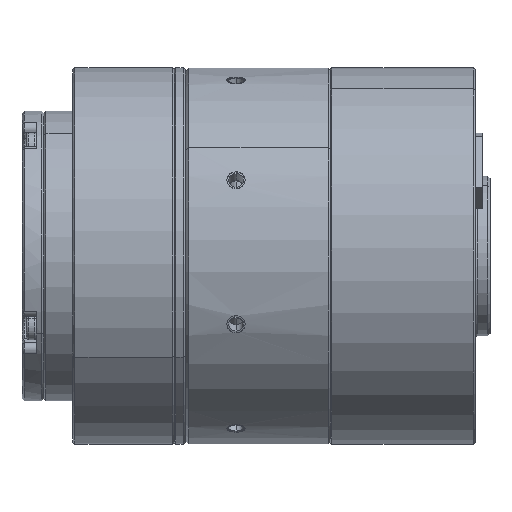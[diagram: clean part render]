
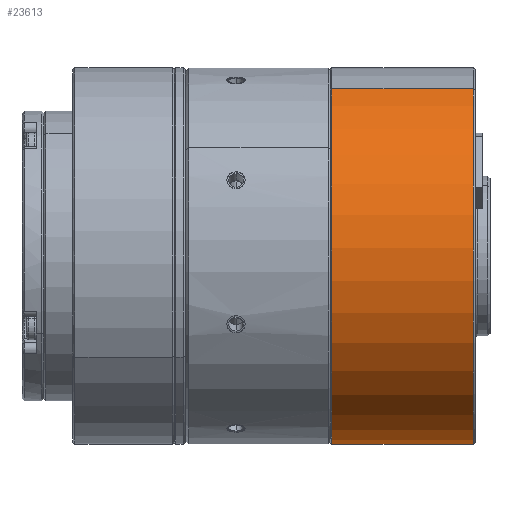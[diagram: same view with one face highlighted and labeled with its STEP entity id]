
A CAD part, left-side view. The second image highlights one B-rep face of the part: STEP entity #23613.
In plain terms, the highlighted cylindrical face has radius 26 mm (diameter 52 mm), a partial arc.
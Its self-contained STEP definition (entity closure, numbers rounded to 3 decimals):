
#790 = CARTESIAN_POINT ( 'NONE',  ( 0., -39.2, 0. ) ) ;
#2153 = AXIS2_PLACEMENT_3D ( 'NONE', #17923, #24983, #28157 ) ;
#3715 = CARTESIAN_POINT ( 'NONE',  ( -12.027, -39.2, 23.051 ) ) ;
#4483 = ORIENTED_EDGE ( 'NONE', *, *, #11722, .F. ) ;
#5437 = CIRCLE ( 'NONE', #26323, 26. ) ;
#5507 = LINE ( 'NONE', #15748, #13502 ) ;
#5817 = DIRECTION ( 'NONE',  ( 0., 1., 0. ) ) ;
#8606 = VERTEX_POINT ( 'NONE', #9079 ) ;
#9079 = CARTESIAN_POINT ( 'NONE',  ( 12.027, -19.7, -23.051 ) ) ;
#9558 = VECTOR ( 'NONE', #26842, 1000. ) ;
#10773 = CARTESIAN_POINT ( 'NONE',  ( 12.027, -39.2, -23.051 ) ) ;
#11722 = EDGE_CURVE ( 'NONE', #12823, #22079, #16598, .T. ) ;
#12823 = VERTEX_POINT ( 'NONE', #19268 ) ;
#13502 = VECTOR ( 'NONE', #25976, 1000. ) ;
#14090 = CARTESIAN_POINT ( 'NONE',  ( 0., -19.5, 0. ) ) ;
#14103 = CARTESIAN_POINT ( 'NONE',  ( -12.027, -19.5, 23.051 ) ) ;
#15197 = EDGE_CURVE ( 'NONE', #8606, #25643, #5507, .T. ) ;
#15748 = CARTESIAN_POINT ( 'NONE',  ( 12.027, -19.5, -23.051 ) ) ;
#16598 = LINE ( 'NONE', #14103, #9558 ) ;
#16921 = DIRECTION ( 'NONE',  ( 0., -1., 0. ) ) ;
#17923 = CARTESIAN_POINT ( 'NONE',  ( 0., -19.7, 0. ) ) ;
#18527 = EDGE_CURVE ( 'NONE', #25643, #22079, #5437, .T. ) ;
#19268 = CARTESIAN_POINT ( 'NONE',  ( -12.027, -19.7, 23.051 ) ) ;
#20909 = AXIS2_PLACEMENT_3D ( 'NONE', #14090, #16921, #24644 ) ;
#21623 = ORIENTED_EDGE ( 'NONE', *, *, #18527, .T. ) ;
#22079 = VERTEX_POINT ( 'NONE', #3715 ) ;
#23613 = ADVANCED_FACE ( 'NONE', ( #29827 ), #26828, .T. ) ;
#23791 = EDGE_CURVE ( 'NONE', #12823, #8606, #32678, .T. ) ;
#24644 = DIRECTION ( 'NONE',  ( 0.463, 0., -0.887 ) ) ;
#24689 = EDGE_LOOP ( 'NONE', ( #4483, #29474, #30077, #21623 ) ) ;
#24983 = DIRECTION ( 'NONE',  ( 0., -1., 0. ) ) ;
#25643 = VERTEX_POINT ( 'NONE', #10773 ) ;
#25976 = DIRECTION ( 'NONE',  ( 0., -1., 0. ) ) ;
#26323 = AXIS2_PLACEMENT_3D ( 'NONE', #790, #5817, #29935 ) ;
#26828 = CYLINDRICAL_SURFACE ( 'NONE', #20909, 26. ) ;
#26842 = DIRECTION ( 'NONE',  ( 0., -1., 0. ) ) ;
#28157 = DIRECTION ( 'NONE',  ( -0.463, 0., 0.887 ) ) ;
#29474 = ORIENTED_EDGE ( 'NONE', *, *, #23791, .T. ) ;
#29827 = FACE_OUTER_BOUND ( 'NONE', #24689, .T. ) ;
#29935 = DIRECTION ( 'NONE',  ( -0.463, 0., 0.887 ) ) ;
#30077 = ORIENTED_EDGE ( 'NONE', *, *, #15197, .T. ) ;
#32678 = CIRCLE ( 'NONE', #2153, 26. ) ;
